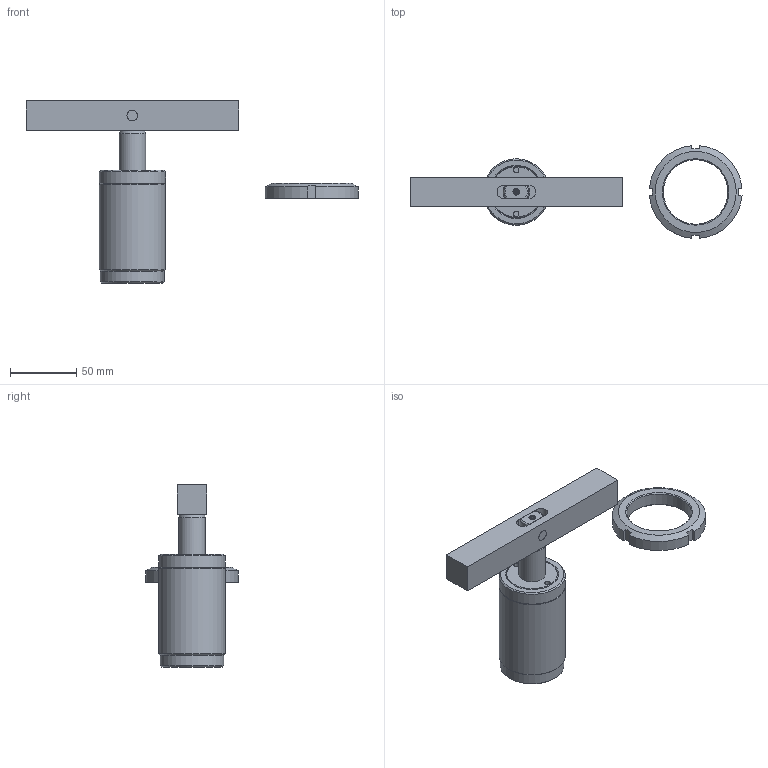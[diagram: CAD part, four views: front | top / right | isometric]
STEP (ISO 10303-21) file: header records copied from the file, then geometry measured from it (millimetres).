
FILE_DESCRIPTION(/* description */ ('Unknown'),/* implementation_level */ '2;1');
FILE_NAME(/* name */ 'HSC-TB32D-B',/* time_stamp */ '2022-08-26T04:13:11+08:00',/* author */ ('Unknown'),/* organization */ ('Unknown'),/* preprocessor_version */ 'ST-DEVELOPER v16.7',/* originating_system */ 'DEX',/* authorisation */ $);
FILE_SCHEMA (('AUTOMOTIVE_DESIGN {1 0 10303 214 3 1 1}'));
Length unit declared in the file: millimetre
Products named in the file (6): HSC-TB32D-B; HSC-3202-D-AXLE CENTRE; HSC-TB32-Nut; HSC-3202-D-FIXED PIN; HSC-32D-B; HSC-TB32D-CYLINDER
Assembly tree (5 placements, depth 2):
  HSC-TB32D-B
    HSC-3202-D-AXLE CENTRE
    HSC-TB32-Nut
    HSC-3202-D-FIXED PIN
    HSC-32D-B
    HSC-TB32D-CYLINDER
Bounding box: 249.87 x 69.74 x 137.2 mm (x, y, z)
Volume: 249288.2 mm3; surface area: 56683.9 mm2
Topology: 5 solids, 5 shells, 105 faces, 230 edges, 145 vertices
Faces by surface type: plane 48, cylinder 24, cone 17, bspline 12, torus 4
Full cylindrical faces by diameter (mm): 4 x2, 8 x4, 9.147 x2, 20 x2, 32 x2, 48 x1, 48.5 x1, 50 x2
Entity records: 3169 total; most frequent: CARTESIAN_POINT 661, DIRECTION 418, ORIENTED_EDGE 356, EDGE_CURVE 178, AXIS2_PLACEMENT_3D 175, EDGE_LOOP 160, FACE_BOUND 160, VERTEX_POINT 128
